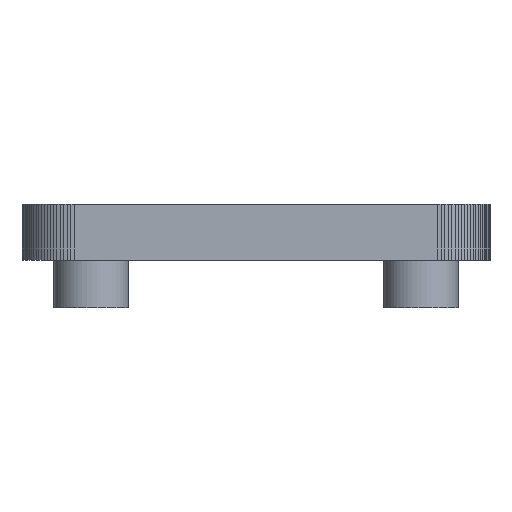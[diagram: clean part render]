
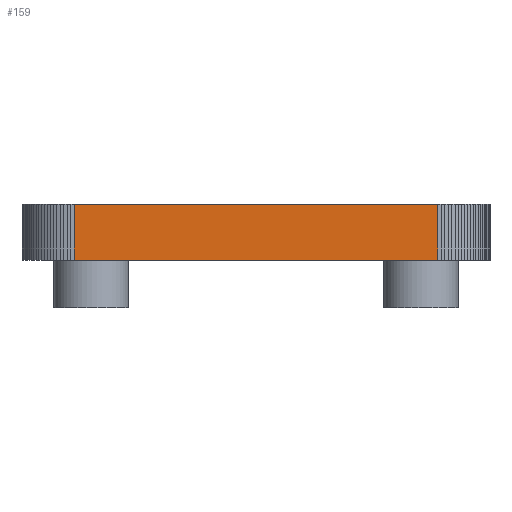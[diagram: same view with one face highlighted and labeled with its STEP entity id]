
A CAD part, front view. The second image highlights one B-rep face of the part: STEP entity #159.
In plain terms, the highlighted free-form (B-spline) face has degree [1, 1] with [2, 2] control points.
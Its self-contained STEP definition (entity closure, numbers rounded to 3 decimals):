
#21 = EDGE_CURVE('',#22,#24,#26,.T.);
#22 = VERTEX_POINT('',#23);
#23 = CARTESIAN_POINT('',(2.,-101.75,8.)
  );
#24 = VERTEX_POINT('',#25);
#25 = CARTESIAN_POINT('',(2.,-101.75,12.
    ));
#26 = SURFACE_CURVE('',#27,(#30,#42),.PCURVE_S1.);
#27 = B_SPLINE_CURVE_WITH_KNOTS('',1,(#28,#29),.UNSPECIFIED.,.F.,.F.,(2,
    2),(0.,314.961),.PIECEWISE_BEZIER_KNOTS.);
#28 = CARTESIAN_POINT('',(2.,-101.75,8.)
  );
#29 = CARTESIAN_POINT('',(2.,-101.75,12.
    ));
#30 = PCURVE('',#31,#36);
#31 = B_SPLINE_SURFACE_WITH_KNOTS('',1,1,(
    (#32,#33)
    ,(#34,#35
    )),.UNSPECIFIED.,.F.,.F.,.F.,(2,2),(2,2),(0.,10.081),(
    -314.961,0.),.PIECEWISE_BEZIER_KNOTS.);
#32 = CARTESIAN_POINT('',(2.,-101.75,12.
    ));
#33 = CARTESIAN_POINT('',(2.,-101.75,8.)
  );
#34 = CARTESIAN_POINT('',(1.744,-101.741,12.)
  );
#35 = CARTESIAN_POINT('',(1.744,-101.741,8.));
#36 = DEFINITIONAL_REPRESENTATION('',(#37),#41);
#37 = B_SPLINE_CURVE_WITH_KNOTS('',2,(#38,#39,#40),.UNSPECIFIED.,.F.,.F.
  ,(3,3),(0.,314.961),.PIECEWISE_BEZIER_KNOTS.);
#38 = CARTESIAN_POINT('',(0.,0.));
#39 = CARTESIAN_POINT('',(0.,-157.48));
#40 = CARTESIAN_POINT('',(0.,-314.961));
#41 = ( GEOMETRIC_REPRESENTATION_CONTEXT(2) 
PARAMETRIC_REPRESENTATION_CONTEXT() REPRESENTATION_CONTEXT('2D SPACE',''
  ) );
#42 = PCURVE('',#43,#48);
#43 = B_SPLINE_SURFACE_WITH_KNOTS('',1,1,(
    (#44,#45)
    ,(#46,#47
  )),.UNSPECIFIED.,.F.,.F.,.F.,(2,2),(2,2),(0.,1023.622),(-314.961
    ,0.),.PIECEWISE_BEZIER_KNOTS.);
#44 = CARTESIAN_POINT('',(28.,-101.75,
    12.));
#45 = CARTESIAN_POINT('',(28.,-101.75,8.)
  );
#46 = CARTESIAN_POINT('',(2.,-101.75,12.
    ));
#47 = CARTESIAN_POINT('',(2.,-101.75,8.)
  );
#48 = DEFINITIONAL_REPRESENTATION('',(#49),#53);
#49 = B_SPLINE_CURVE_WITH_KNOTS('',2,(#50,#51,#52),.UNSPECIFIED.,.F.,.F.
  ,(3,3),(0.,314.961),.PIECEWISE_BEZIER_KNOTS.);
#50 = CARTESIAN_POINT('',(1023.622,0.));
#51 = CARTESIAN_POINT('',(1023.622,-157.48));
#52 = CARTESIAN_POINT('',(1023.622,-314.961));
#53 = ( GEOMETRIC_REPRESENTATION_CONTEXT(2) 
PARAMETRIC_REPRESENTATION_CONTEXT() REPRESENTATION_CONTEXT('2D SPACE',''
  ) );
#70 = B_SPLINE_SURFACE_WITH_KNOTS('',1,1,(
    (#71,#72)
    ,(#73,#74
    )),.UNSPECIFIED.,.F.,.F.,.F.,(2,2),(2,2),(-659.449,659.449),(
    -2037.402,2037.402),.PIECEWISE_BEZIER_KNOTS.);
#71 = CARTESIAN_POINT('',(31.75,-101.75,12.
    ));
#72 = CARTESIAN_POINT('',(31.75,1.75,12.)
  );
#73 = CARTESIAN_POINT('',(-1.75,-101.75,
    12.));
#74 = CARTESIAN_POINT('',(-1.75,1.75,12.
    ));
#121 = B_SPLINE_SURFACE_WITH_KNOTS('',1,1,(
    (#122,#123)
    ,(#124,#125
    )),.UNSPECIFIED.,.F.,.F.,.F.,(2,2),(2,2),(-659.449,659.449),(
    -2037.402,2037.402),.PIECEWISE_BEZIER_KNOTS.);
#122 = CARTESIAN_POINT('',(31.75,-101.75,8.)
  );
#123 = CARTESIAN_POINT('',(31.75,1.75,8.)
  );
#124 = CARTESIAN_POINT('',(-1.75,-101.75,8.
    ));
#125 = CARTESIAN_POINT('',(-1.75,1.75,8.)
  );
#159 = ADVANCED_FACE('',(#160),#43,.T.);
#160 = FACE_BOUND('',#161,.T.);
#161 = EDGE_LOOP('',(#162,#191,#210,#211));
#162 = ORIENTED_EDGE('',*,*,#163,.T.);
#163 = EDGE_CURVE('',#164,#166,#168,.T.);
#164 = VERTEX_POINT('',#165);
#165 = CARTESIAN_POINT('',(28.,-101.75,8.
    ));
#166 = VERTEX_POINT('',#167);
#167 = CARTESIAN_POINT('',(28.,-101.75,
    12.));
#168 = SURFACE_CURVE('',#169,(#172,#179),.PCURVE_S1.);
#169 = B_SPLINE_CURVE_WITH_KNOTS('',1,(#170,#171),.UNSPECIFIED.,.F.,.F.,
  (2,2),(0.,314.961),.PIECEWISE_BEZIER_KNOTS.);
#170 = CARTESIAN_POINT('',(28.,-101.75,8.
    ));
#171 = CARTESIAN_POINT('',(28.,-101.75,
    12.));
#172 = PCURVE('',#43,#173);
#173 = DEFINITIONAL_REPRESENTATION('',(#174),#178);
#174 = B_SPLINE_CURVE_WITH_KNOTS('',2,(#175,#176,#177),.UNSPECIFIED.,.F.
  ,.F.,(3,3),(0.,314.961),.PIECEWISE_BEZIER_KNOTS.);
#175 = CARTESIAN_POINT('',(0.,0.));
#176 = CARTESIAN_POINT('',(0.,-157.48));
#177 = CARTESIAN_POINT('',(0.,-314.961));
#178 = ( GEOMETRIC_REPRESENTATION_CONTEXT(2) 
PARAMETRIC_REPRESENTATION_CONTEXT() REPRESENTATION_CONTEXT('2D SPACE',''
  ) );
#179 = PCURVE('',#180,#185);
#180 = B_SPLINE_SURFACE_WITH_KNOTS('',1,1,(
    (#181,#182)
    ,(#183,#184
    )),.UNSPECIFIED.,.F.,.F.,.F.,(2,2),(2,2),(0.,10.081),(
    -314.961,0.),.PIECEWISE_BEZIER_KNOTS.);
#181 = CARTESIAN_POINT('',(28.256,-101.741,12.
    ));
#182 = CARTESIAN_POINT('',(28.256,-101.741,8.)
  );
#183 = CARTESIAN_POINT('',(28.,-101.75,
    12.));
#184 = CARTESIAN_POINT('',(28.,-101.75,8.
    ));
#185 = DEFINITIONAL_REPRESENTATION('',(#186),#190);
#186 = B_SPLINE_CURVE_WITH_KNOTS('',2,(#187,#188,#189),.UNSPECIFIED.,.F.
  ,.F.,(3,3),(0.,314.961),.PIECEWISE_BEZIER_KNOTS.);
#187 = CARTESIAN_POINT('',(10.081,0.));
#188 = CARTESIAN_POINT('',(10.081,-157.48));
#189 = CARTESIAN_POINT('',(10.081,-314.961));
#190 = ( GEOMETRIC_REPRESENTATION_CONTEXT(2) 
PARAMETRIC_REPRESENTATION_CONTEXT() REPRESENTATION_CONTEXT('2D SPACE',''
  ) );
#191 = ORIENTED_EDGE('',*,*,#192,.T.);
#192 = EDGE_CURVE('',#166,#24,#193,.T.);
#193 = SURFACE_CURVE('',#194,(#197,#204),.PCURVE_S1.);
#194 = B_SPLINE_CURVE_WITH_KNOTS('',1,(#195,#196),.UNSPECIFIED.,.F.,.F.,
  (2,2),(0.,1023.622),.PIECEWISE_BEZIER_KNOTS.);
#195 = CARTESIAN_POINT('',(28.,-101.75,
    12.));
#196 = CARTESIAN_POINT('',(2.,-101.75,
    12.));
#197 = PCURVE('',#43,#198);
#198 = DEFINITIONAL_REPRESENTATION('',(#199),#203);
#199 = B_SPLINE_CURVE_WITH_KNOTS('',2,(#200,#201,#202),.UNSPECIFIED.,.F.
  ,.F.,(3,3),(0.,1023.622),.PIECEWISE_BEZIER_KNOTS.);
#200 = CARTESIAN_POINT('',(0.,-314.961));
#201 = CARTESIAN_POINT('',(511.811,-314.961));
#202 = CARTESIAN_POINT('',(1023.622,-314.961));
#203 = ( GEOMETRIC_REPRESENTATION_CONTEXT(2) 
PARAMETRIC_REPRESENTATION_CONTEXT() REPRESENTATION_CONTEXT('2D SPACE',''
  ) );
#204 = PCURVE('',#70,#205);
#205 = DEFINITIONAL_REPRESENTATION('',(#206),#209);
#206 = B_SPLINE_CURVE_WITH_KNOTS('',1,(#207,#208),.UNSPECIFIED.,.F.,.F.,
  (2,2),(0.,1023.622),.PIECEWISE_BEZIER_KNOTS.);
#207 = CARTESIAN_POINT('',(-511.811,-2037.402));
#208 = CARTESIAN_POINT('',(511.811,-2037.402));
#209 = ( GEOMETRIC_REPRESENTATION_CONTEXT(2) 
PARAMETRIC_REPRESENTATION_CONTEXT() REPRESENTATION_CONTEXT('2D SPACE',''
  ) );
#210 = ORIENTED_EDGE('',*,*,#21,.F.);
#211 = ORIENTED_EDGE('',*,*,#212,.F.);
#212 = EDGE_CURVE('',#164,#22,#213,.T.);
#213 = SURFACE_CURVE('',#214,(#217,#224),.PCURVE_S1.);
#214 = B_SPLINE_CURVE_WITH_KNOTS('',1,(#215,#216),.UNSPECIFIED.,.F.,.F.,
  (2,2),(0.,1023.622),.PIECEWISE_BEZIER_KNOTS.);
#215 = CARTESIAN_POINT('',(28.,-101.75,8.
    ));
#216 = CARTESIAN_POINT('',(2.,-101.75,8.)
  );
#217 = PCURVE('',#43,#218);
#218 = DEFINITIONAL_REPRESENTATION('',(#219),#223);
#219 = B_SPLINE_CURVE_WITH_KNOTS('',2,(#220,#221,#222),.UNSPECIFIED.,.F.
  ,.F.,(3,3),(0.,1023.622),.PIECEWISE_BEZIER_KNOTS.);
#220 = CARTESIAN_POINT('',(0.,0.));
#221 = CARTESIAN_POINT('',(511.811,0.));
#222 = CARTESIAN_POINT('',(1023.622,0.));
#223 = ( GEOMETRIC_REPRESENTATION_CONTEXT(2) 
PARAMETRIC_REPRESENTATION_CONTEXT() REPRESENTATION_CONTEXT('2D SPACE',''
  ) );
#224 = PCURVE('',#121,#225);
#225 = DEFINITIONAL_REPRESENTATION('',(#226),#236);
#226 = B_SPLINE_CURVE_WITH_KNOTS('',8,(#227,#228,#229,#230,#231,#232,
    #233,#234,#235),.UNSPECIFIED.,.F.,.F.,(9,9),(0.,1023.622),
  .PIECEWISE_BEZIER_KNOTS.);
#227 = CARTESIAN_POINT('',(-511.811,-2037.402));
#228 = CARTESIAN_POINT('',(-383.858,-2037.402));
#229 = CARTESIAN_POINT('',(-255.906,-2037.402));
#230 = CARTESIAN_POINT('',(-127.953,-2037.402));
#231 = CARTESIAN_POINT('',(0.,-2037.402));
#232 = CARTESIAN_POINT('',(127.953,-2037.402));
#233 = CARTESIAN_POINT('',(255.906,-2037.402));
#234 = CARTESIAN_POINT('',(383.858,-2037.402));
#235 = CARTESIAN_POINT('',(511.811,-2037.402));
#236 = ( GEOMETRIC_REPRESENTATION_CONTEXT(2) 
PARAMETRIC_REPRESENTATION_CONTEXT() REPRESENTATION_CONTEXT('2D SPACE',''
  ) );
